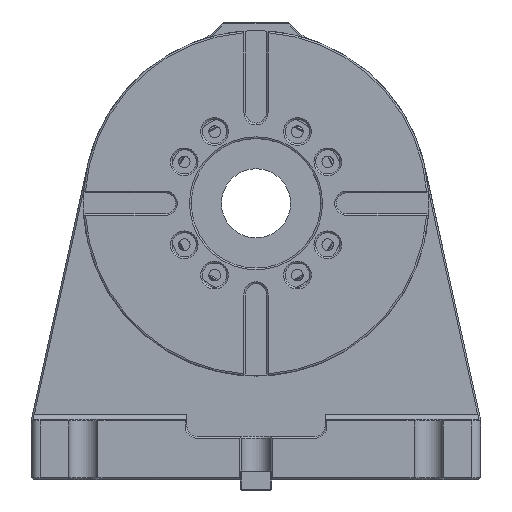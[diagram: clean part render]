
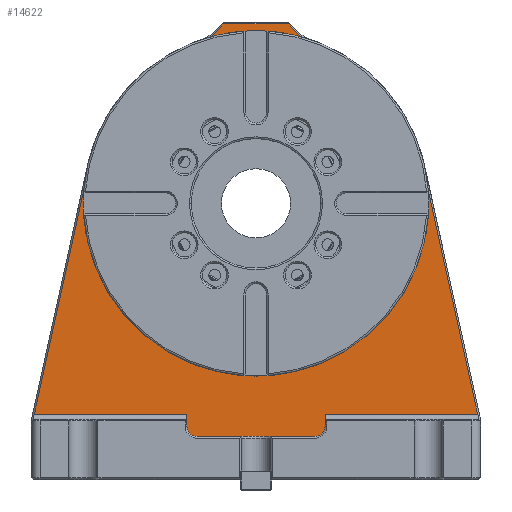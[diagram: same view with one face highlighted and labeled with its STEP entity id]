
A CAD part, front view. The second image highlights one B-rep face of the part: STEP entity #14622.
In plain terms, the highlighted planar face has unit normal (0, -1, 0).
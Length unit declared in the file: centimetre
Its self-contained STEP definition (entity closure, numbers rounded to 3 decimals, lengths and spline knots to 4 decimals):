
#291 = CARTESIAN_POINT ( 'NONE',  ( 10.4657, -4.8129, 31.384 ) ) ;
#369 = CARTESIAN_POINT ( 'NONE',  ( 0.7984, -4.8129, 29.25 ) ) ;
#507 = VERTEX_POINT ( 'NONE', #5179 ) ;
#511 = AXIS2_PLACEMENT_3D ( 'NONE', #2485, #6570, #7920 ) ;
#546 = VERTEX_POINT ( 'NONE', #5242 ) ;
#650 = ORIENTED_EDGE ( 'NONE', *, *, #1006, .T. ) ;
#983 = DIRECTION ( 'NONE',  ( -1., 0., 0. ) ) ;
#1006 = EDGE_CURVE ( 'NONE', #1296, #507, #15491, .T. ) ;
#1042 = AXIS2_PLACEMENT_3D ( 'NONE', #1156, #14579, #3838 ) ;
#1156 = CARTESIAN_POINT ( 'NONE',  ( 4.1984, -4.8129, 16.35 ) ) ;
#1296 = VERTEX_POINT ( 'NONE', #13020 ) ;
#1379 = CIRCLE ( 'NONE', #1042, 0.6 ) ;
#1476 = CARTESIAN_POINT ( 'NONE',  ( -3.2016, -4.8129, 15.75 ) ) ;
#1506 = VECTOR ( 'NONE', #983, 100. ) ;
#1666 = DIRECTION ( 'NONE',  ( 0., -1., 0. ) ) ;
#1677 = EDGE_CURVE ( 'NONE', #17064, #546, #16279, .T. ) ;
#1791 = VERTEX_POINT ( 'NONE', #8093 ) ;
#1868 = CIRCLE ( 'NONE', #10135, 8.45 ) ;
#1875 = EDGE_CURVE ( 'NONE', #1791, #11137, #6874, .T. ) ;
#1919 = VECTOR ( 'NONE', #7365, 100. ) ;
#1934 = EDGE_LOOP ( 'NONE', ( #10413, #8318 ) ) ;
#2485 = CARTESIAN_POINT ( 'NONE',  ( 4.5922, -4.8129, 40.6345 ) ) ;
#2554 = ORIENTED_EDGE ( 'NONE', *, *, #8895, .T. ) ;
#2730 = DIRECTION ( 'NONE',  ( -1., 0., 0. ) ) ;
#2813 = FACE_OUTER_BOUND ( 'NONE', #13542, .T. ) ;
#2826 = VERTEX_POINT ( 'NONE', #8480 ) ;
#2977 = CARTESIAN_POINT ( 'NONE',  ( -7.6516, -4.8129, 29.25 ) ) ;
#3167 = ORIENTED_EDGE ( 'NONE', *, *, #1677, .T. ) ;
#3440 = LINE ( 'NONE', #3665, #7035 ) ;
#3643 = ORIENTED_EDGE ( 'NONE', *, *, #13227, .T. ) ;
#3665 = CARTESIAN_POINT ( 'NONE',  ( 10.4657, -4.8129, 31.384 ) ) ;
#3681 = EDGE_CURVE ( 'NONE', #15326, #9223, #11605, .T. ) ;
#3713 = VECTOR ( 'NONE', #6581, 100. ) ;
#3811 = VERTEX_POINT ( 'NONE', #8109 ) ;
#3838 = DIRECTION ( 'NONE',  ( -1., 0., 0. ) ) ;
#3895 = CARTESIAN_POINT ( 'NONE',  ( -2.9954, -4.8129, 40.6345 ) ) ;
#3945 = CARTESIAN_POINT ( 'NONE',  ( -1.1404, -4.8129, 39.65 ) ) ;
#4072 = LINE ( 'NONE', #8769, #1919 ) ;
#4115 = CARTESIAN_POINT ( 'NONE',  ( 0.7984, -4.8129, 29.25 ) ) ;
#4299 = ORIENTED_EDGE ( 'NONE', *, *, #16013, .T. ) ;
#4307 = VERTEX_POINT ( 'NONE', #13581 ) ;
#4582 = EDGE_CURVE ( 'NONE', #12111, #3811, #1868, .T. ) ;
#5078 = CARTESIAN_POINT ( 'NONE',  ( 0.7984, -4.8129, 29.25 ) ) ;
#5179 = CARTESIAN_POINT ( 'NONE',  ( 13.6298, -4.8129, 17.05 ) ) ;
#5242 = CARTESIAN_POINT ( 'NONE',  ( 2.7373, -4.8129, 39.65 ) ) ;
#5425 = DIRECTION ( 'NONE',  ( 0., 0., -1. ) ) ;
#5817 = EDGE_CURVE ( 'NONE', #16002, #1791, #16756, .T. ) ;
#6267 = ORIENTED_EDGE ( 'NONE', *, *, #9084, .T. ) ;
#6284 = DIRECTION ( 'NONE',  ( 1., 0., 0. ) ) ;
#6419 = LINE ( 'NONE', #9083, #1506 ) ;
#6420 = DIRECTION ( 'NONE',  ( 0., 1., 0. ) ) ;
#6570 = DIRECTION ( 'NONE',  ( 0., 1., 0. ) ) ;
#6581 = DIRECTION ( 'NONE',  ( 1., 0., 0. ) ) ;
#6701 = VECTOR ( 'NONE', #6284, 100. ) ;
#6703 = VECTOR ( 'NONE', #10484, 100. ) ;
#6874 = CIRCLE ( 'NONE', #9183, 0.6 ) ;
#6946 = EDGE_CURVE ( 'NONE', #9223, #14154, #12361, .T. ) ;
#7035 = VECTOR ( 'NONE', #7502, 100. ) ;
#7365 = DIRECTION ( 'NONE',  ( 0., 0., 1. ) ) ;
#7448 = CARTESIAN_POINT ( 'NONE',  ( -9.2016, -4.8129, 17.05 ) ) ;
#7502 = DIRECTION ( 'NONE',  ( -0.216, 0., 0.976 ) ) ;
#7823 = ORIENTED_EDGE ( 'NONE', *, *, #17176, .T. ) ;
#7850 = DIRECTION ( 'NONE',  ( 0., 1., 0. ) ) ;
#7907 = CARTESIAN_POINT ( 'NONE',  ( -2.6016, -4.8129, 15.75 ) ) ;
#7920 = DIRECTION ( 'NONE',  ( -1., 0., 0. ) ) ;
#8093 = CARTESIAN_POINT ( 'NONE',  ( -3.2016, -4.8129, 16.35 ) ) ;
#8109 = CARTESIAN_POINT ( 'NONE',  ( 9.2484, -4.8129, 29.25 ) ) ;
#8294 = EDGE_CURVE ( 'NONE', #16135, #15326, #12913, .T. ) ;
#8318 = ORIENTED_EDGE ( 'NONE', *, *, #9489, .T. ) ;
#8480 = CARTESIAN_POINT ( 'NONE',  ( 4.1984, -4.8129, 15.75 ) ) ;
#8769 = CARTESIAN_POINT ( 'NONE',  ( 4.7984, -4.8129, 15.75 ) ) ;
#8815 = EDGE_CURVE ( 'NONE', #507, #9477, #3440, .T. ) ;
#8895 = EDGE_CURVE ( 'NONE', #546, #16135, #6419, .T. ) ;
#8981 = VECTOR ( 'NONE', #9508, 100. ) ;
#9015 = ORIENTED_EDGE ( 'NONE', *, *, #17242, .T. ) ;
#9083 = CARTESIAN_POINT ( 'NONE',  ( -1.2016, -4.8129, 39.65 ) ) ;
#9084 = EDGE_CURVE ( 'NONE', #4307, #1296, #4072, .T. ) ;
#9183 = AXIS2_PLACEMENT_3D ( 'NONE', #16323, #1666, #15106 ) ;
#9200 = AXIS2_PLACEMENT_3D ( 'NONE', #14950, #16395, #9713 ) ;
#9223 = VERTEX_POINT ( 'NONE', #16584 ) ;
#9231 = DIRECTION ( 'NONE',  ( -1., 0., 0. ) ) ;
#9318 = CIRCLE ( 'NONE', #9200, 8.45 ) ;
#9477 = VERTEX_POINT ( 'NONE', #291 ) ;
#9489 = EDGE_CURVE ( 'NONE', #3811, #12111, #9318, .T. ) ;
#9508 = DIRECTION ( 'NONE',  ( 1., 0., 0. ) ) ;
#9713 = DIRECTION ( 'NONE',  ( -1., 0., 0. ) ) ;
#9790 = CIRCLE ( 'NONE', #11933, 9.9 ) ;
#9842 = DIRECTION ( 'NONE',  ( -1., 0., 0. ) ) ;
#9843 = DIRECTION ( 'NONE',  ( 0., -1., 0. ) ) ;
#9949 = ORIENTED_EDGE ( 'NONE', *, *, #8815, .T. ) ;
#9962 = FACE_BOUND ( 'NONE', #1934, .T. ) ;
#10135 = AXIS2_PLACEMENT_3D ( 'NONE', #5078, #6420, #9231 ) ;
#10413 = ORIENTED_EDGE ( 'NONE', *, *, #4582, .T. ) ;
#10471 = DIRECTION ( 'NONE',  ( -1., 0., 0. ) ) ;
#10484 = DIRECTION ( 'NONE',  ( -0.216, 0., -0.976 ) ) ;
#10726 = CARTESIAN_POINT ( 'NONE',  ( -9.2016, -4.8129, 17.05 ) ) ;
#11137 = VERTEX_POINT ( 'NONE', #7907 ) ;
#11418 = CARTESIAN_POINT ( 'NONE',  ( -2.3315, -4.8129, 38.6422 ) ) ;
#11465 = CARTESIAN_POINT ( 'NONE',  ( -3.2016, -4.8129, 17.05 ) ) ;
#11605 = CIRCLE ( 'NONE', #14272, 9.9 ) ;
#11879 = ORIENTED_EDGE ( 'NONE', *, *, #6946, .T. ) ;
#11933 = AXIS2_PLACEMENT_3D ( 'NONE', #369, #9843, #15264 ) ;
#11970 = CARTESIAN_POINT ( 'NONE',  ( -9.2016, -4.8129, 29.25 ) ) ;
#11979 = CARTESIAN_POINT ( 'NONE',  ( 3.9283, -4.8129, 38.6422 ) ) ;
#12111 = VERTEX_POINT ( 'NONE', #2977 ) ;
#12139 = LINE ( 'NONE', #7448, #6701 ) ;
#12361 = LINE ( 'NONE', #14372, #6703 ) ;
#12913 = CIRCLE ( 'NONE', #13293, 2.1 ) ;
#13020 = CARTESIAN_POINT ( 'NONE',  ( 4.7984, -4.8129, 17.05 ) ) ;
#13227 = EDGE_CURVE ( 'NONE', #2826, #4307, #1379, .T. ) ;
#13293 = AXIS2_PLACEMENT_3D ( 'NONE', #3895, #7850, #10471 ) ;
#13497 = CARTESIAN_POINT ( 'NONE',  ( -3.2016, -4.8129, 15.75 ) ) ;
#13498 = PLANE ( 'NONE',  #15118 ) ;
#13510 = DIRECTION ( 'NONE',  ( 0., -1., 0. ) ) ;
#13542 = EDGE_LOOP ( 'NONE', ( #13674, #11879, #4299, #14138, #17117, #7823, #3643, #6267, #650, #9949, #9015, #3167, #2554, #16534 ) ) ;
#13581 = CARTESIAN_POINT ( 'NONE',  ( 4.7984, -4.8129, 16.35 ) ) ;
#13674 = ORIENTED_EDGE ( 'NONE', *, *, #3681, .T. ) ;
#13683 = CARTESIAN_POINT ( 'NONE',  ( -12.033, -4.8129, 17.05 ) ) ;
#14138 = ORIENTED_EDGE ( 'NONE', *, *, #5817, .T. ) ;
#14154 = VERTEX_POINT ( 'NONE', #13683 ) ;
#14272 = AXIS2_PLACEMENT_3D ( 'NONE', #4115, #13510, #9842 ) ;
#14372 = CARTESIAN_POINT ( 'NONE',  ( -12.0377, -4.8129, 17.0284 ) ) ;
#14579 = DIRECTION ( 'NONE',  ( 0., -1., 0. ) ) ;
#14622 = ADVANCED_FACE ( 'NONE', ( #9962, #2813 ), #13498, .F. ) ;
#14844 = DIRECTION ( 'NONE',  ( 0., 1., 0. ) ) ;
#14950 = CARTESIAN_POINT ( 'NONE',  ( 0.7984, -4.8129, 29.25 ) ) ;
#15106 = DIRECTION ( 'NONE',  ( -1., 0., 0. ) ) ;
#15118 = AXIS2_PLACEMENT_3D ( 'NONE', #11970, #14844, #2730 ) ;
#15264 = DIRECTION ( 'NONE',  ( -1., 0., 0. ) ) ;
#15326 = VERTEX_POINT ( 'NONE', #11418 ) ;
#15491 = LINE ( 'NONE', #10726, #3713 ) ;
#16002 = VERTEX_POINT ( 'NONE', #11465 ) ;
#16013 = EDGE_CURVE ( 'NONE', #14154, #16002, #12139, .T. ) ;
#16135 = VERTEX_POINT ( 'NONE', #3945 ) ;
#16279 = CIRCLE ( 'NONE', #511, 2.1 ) ;
#16323 = CARTESIAN_POINT ( 'NONE',  ( -2.6016, -4.8129, 16.35 ) ) ;
#16395 = DIRECTION ( 'NONE',  ( 0., 1., 0. ) ) ;
#16534 = ORIENTED_EDGE ( 'NONE', *, *, #8294, .T. ) ;
#16584 = CARTESIAN_POINT ( 'NONE',  ( -8.8689, -4.8129, 31.384 ) ) ;
#16756 = LINE ( 'NONE', #13497, #17408 ) ;
#17064 = VERTEX_POINT ( 'NONE', #11979 ) ;
#17117 = ORIENTED_EDGE ( 'NONE', *, *, #1875, .T. ) ;
#17135 = LINE ( 'NONE', #1476, #8981 ) ;
#17176 = EDGE_CURVE ( 'NONE', #11137, #2826, #17135, .T. ) ;
#17242 = EDGE_CURVE ( 'NONE', #9477, #17064, #9790, .T. ) ;
#17408 = VECTOR ( 'NONE', #5425, 100. ) ;
